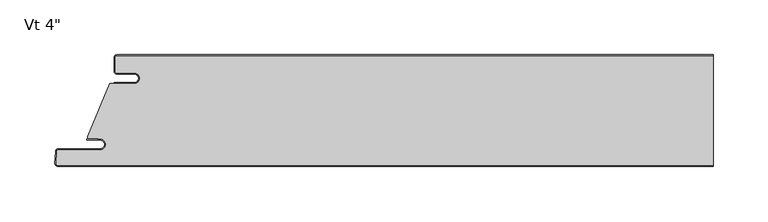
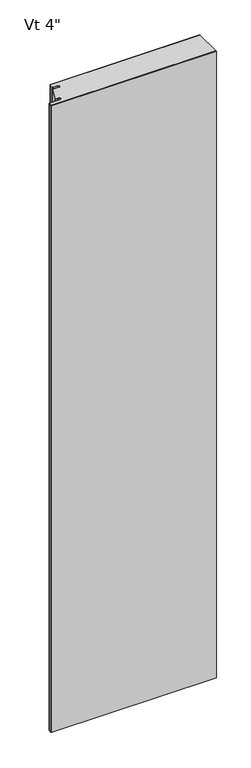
"""IFC4 building model written with IfcOpenShell, lengths in millimetres: plate geometry."""

import ifcopenshell
import ifcopenshell.guid

model = None  # the IFC model being written
_history = None  # IfcOwnerHistory: only IFC2X3 demands one
_inside = {}  # id of a spatial element -> (the spatial element, [elements in it])
_under = {}  # id of a project, library or spatial element -> (it, [spatial elements below it])
_declared = {}  # id of a project -> (the project, [libraries it declares])
_typed = {}  # id of a type object -> (the type object, [elements of that type])
_made_of = {}  # id of a material, layer set ... -> (it, [elements and type objects made of it])


def new_model(schema):
    """Start an empty IFC model of exactly this schema.

    Asked for "IFC4X3", IfcOpenShell would pick the latest addendum, in which some entities
    have other attributes; the version numbers below select the first issue.
    IFC2X3 requires an IfcOwnerHistory on every rooted entity: one is made here for all.
    """
    global model, _history
    if schema == "IFC4X3":
        model = ifcopenshell.file(schema_version=(4, 3, 0, 0))
    else:
        model = ifcopenshell.file(schema=schema)
    _inside.clear()
    _under.clear()
    _declared.clear()
    _typed.clear()
    _made_of.clear()
    _history = None
    if model.schema == "IFC2X3":
        org = make("IfcOrganization", Name="unknown")
        user = make(
            "IfcPersonAndOrganization",
            ThePerson=make("IfcPerson", FamilyName="unknown"),
            TheOrganization=org,
        )
        app = make(
            "IfcApplication",
            ApplicationDeveloper=org,
            Version="unknown",
            ApplicationFullName="unknown",
            ApplicationIdentifier="unknown",
        )
        _history = make(
            "IfcOwnerHistory",
            OwningUser=user,
            OwningApplication=app,
            ChangeAction="ADDED",
            CreationDate=0,
        )
    return model


def make(cls, **values):
    """One entity of the class cls with the attributes given. An attribute that is None is left unset."""
    return model.create_entity(
        cls, **{name: value for name, value in values.items() if value is not None}
    )


def rooted(cls, **values):
    """An entity with a GlobalId (a new one), such as an element, a storey or a relation."""
    return make(cls, GlobalId=ifcopenshell.guid.new(), OwnerHistory=_history, **values)


def si_unit(unit_type, name, prefix=None):
    """IfcSIUnit, for example si_unit("LENGTHUNIT", "METRE", prefix="MILLI")."""
    return make("IfcSIUnit", UnitType=unit_type, Prefix=prefix, Name=name)


def assignment(units):
    """IfcUnitAssignment: the units of a project."""
    return None if units is None else make("IfcUnitAssignment", Units=units)


def point(xyz):
    """IfcCartesianPoint."""
    return None if xyz is None else make("IfcCartesianPoint", Coordinates=xyz)


def direction(xyz):
    """IfcDirection."""
    return None if xyz is None else make("IfcDirection", DirectionRatios=xyz)


def frame(location, z_axis=None, x_axis=None):
    """IfcAxis2Placement3D, a coordinate frame: its origin and axes. An axis left out is left unset."""
    return make(
        "IfcAxis2Placement3D",
        Location=point(location),
        Axis=direction(z_axis),
        RefDirection=direction(x_axis),
    )


def frame_2d(location, x_axis=None):
    """IfcAxis2Placement2D, a coordinate frame in the plane: its origin and x axis."""
    return make(
        "IfcAxis2Placement2D", Location=point(location), RefDirection=direction(x_axis)
    )


def origin():
    """The frame at (0, 0, 0) with its axes left unset."""
    return frame((0.0, 0.0, 0.0))


def origin_with_axes():
    """The frame at (0, 0, 0) with the z axis (0, 0, 1) and the x axis (1, 0, 0) written out."""
    return frame((0.0, 0.0, 0.0), z_axis=(0.0, 0.0, 1.0), x_axis=(1.0, 0.0, 0.0))


def place(relative_to, where):
    """IfcLocalPlacement: puts the frame where relative to a parent placement (None: the world)."""
    return make(
        "IfcLocalPlacement", PlacementRelTo=relative_to, RelativePlacement=where
    )


def context(
    kind, dimensions, precision=None, world=None, true_north=None, identifier=None
):
    """IfcGeometricRepresentationContext, for example the 3D "Model" context."""
    return make(
        "IfcGeometricRepresentationContext",
        ContextIdentifier=identifier,
        ContextType=kind,
        CoordinateSpaceDimension=dimensions,
        Precision=precision,
        WorldCoordinateSystem=world,
        TrueNorth=true_north,
    )


def project(units=None, contexts=None):
    """IfcProject with its units and contexts."""
    return rooted(
        "IfcProject",
        Name="project",
        RepresentationContexts=contexts,
        UnitsInContext=assignment(units),
    )


def spatial(cls, under=None, at=None, **own):
    """A site, building, storey or space (cls), placed at a placement, below another one or the project."""
    s = rooted(cls, ObjectPlacement=at, **own)
    if under is not None:
        _under.setdefault(under.id(), (under, []))[1].append(s)
    return s


def polyline(points):
    """IfcPolyline through the points."""
    return make("IfcPolyline", Points=[point(p) for p in points])


def circle_curve(where, radius):
    """IfcCircle in the frame where."""
    return make("IfcCircle", Position=where, Radius=radius)


def trimmed(basis, trim1, trim2, sense, master):
    """IfcTrimmedCurve: the piece of a basis curve between two trims."""
    return make(
        "IfcTrimmedCurve",
        BasisCurve=basis,
        Trim1=trim1,
        Trim2=trim2,
        SenseAgreement=sense,
        MasterRepresentation=master,
    )


def segment(curve, same_sense, transition):
    """IfcCompositeCurveSegment."""
    return make(
        "IfcCompositeCurveSegment",
        Transition=transition,
        SameSense=same_sense,
        ParentCurve=curve,
    )


def composite_curve(segments, self_intersect=None):
    """IfcCompositeCurve: segments joined end to end."""
    return make("IfcCompositeCurve", Segments=segments, SelfIntersect=self_intersect)


def outline(outer, holes=None, kind="AREA"):
    """IfcArbitraryClosedProfileDef: a profile drawn as a closed curve; with holes, ...WithVoids."""
    if holes is None:
        return make("IfcArbitraryClosedProfileDef", ProfileType=kind, OuterCurve=outer)
    return make(
        "IfcArbitraryProfileDefWithVoids",
        ProfileType=kind,
        OuterCurve=outer,
        InnerCurves=holes,
    )


def extrude(swept, where, along, depth):
    """IfcExtrudedAreaSolid: the profile swept, set in the frame where, extruded along a direction by depth."""
    return make(
        "IfcExtrudedAreaSolid",
        SweptArea=swept,
        Position=where,
        ExtrudedDirection=direction(along),
        Depth=depth,
    )


def shape(context_of_items, identifier, shape_type, items):
    """IfcShapeRepresentation: the items that make up one representation, for example the "Body"."""
    return make(
        "IfcShapeRepresentation",
        ContextOfItems=context_of_items,
        RepresentationIdentifier=identifier,
        RepresentationType=shape_type,
        Items=items,
    )


def source(mapping_origin, context_of_items, identifier, shape_type, items):
    """IfcRepresentationMap: a shape defined once, which mapped items show again and again."""
    return make(
        "IfcRepresentationMap",
        MappingOrigin=mapping_origin,
        MappedRepresentation=shape(context_of_items, identifier, shape_type, items),
    )


def transform(
    local_origin,
    x_axis=None,
    y_axis=None,
    z_axis=None,
    scale=None,
    scale2=None,
    scale3=None,
    uniform=True,
):
    """IfcCartesianTransformationOperator3D, or its non-uniform kind. x_axis, y_axis, z_axis: its Axis1, 2, 3."""
    if uniform:
        return make(
            "IfcCartesianTransformationOperator3D",
            Axis1=direction(x_axis),
            Axis2=direction(y_axis),
            LocalOrigin=point(local_origin),
            Scale=scale,
            Axis3=direction(z_axis),
        )
    return make(
        "IfcCartesianTransformationOperator3DnonUniform",
        Axis1=direction(x_axis),
        Axis2=direction(y_axis),
        LocalOrigin=point(local_origin),
        Scale=scale,
        Axis3=direction(z_axis),
        Scale2=scale2,
        Scale3=scale3,
    )


def mapped(mapping_source, mapping_target):
    """IfcMappedItem: shows the shape of a source again, moved by a transform."""
    return make(
        "IfcMappedItem", MappingSource=mapping_source, MappingTarget=mapping_target
    )


def made_of(thing, what):
    """Note that an element or type object is made of a material, layer set ...; save() writes the relation."""
    if what is not None:
        _made_of.setdefault(what.id(), (what, []))[1].append(thing)
    return thing


def element(
    cls,
    number,
    at=None,
    inside=None,
    cuts=None,
    type_object=None,
    material=None,
    context=None,
    identifier="Body",
    shape_type=None,
    held_by="IfcProductDefinitionShape",
    body=None,
    shapes=None,
    **own,
):
    """One element of the class cls, such as IfcWall. Its Tag is "e" and its number.

    at: its placement. inside: the storey or other place that contains it. cuts: it is an
    opening in that element (IfcRelVoidsElement). A single representation is given by context,
    identifier, shape_type and body (its items); several are given by shapes. held_by: the class
    of the entity that holds the representations. save() writes the other relations.
    """
    e = rooted(cls, Tag="e%d" % number, ObjectPlacement=at, **own)
    if body is not None:
        shapes = [shape(context, identifier, shape_type, body)]
    if shapes is not None:
        e.Representation = make(held_by, Representations=shapes)
    if inside is not None:
        _inside.setdefault(inside.id(), (inside, []))[1].append(e)
    if cuts is not None:
        rooted(
            "IfcRelVoidsElement", RelatingBuildingElement=cuts, RelatedOpeningElement=e
        )
    if type_object is not None:
        _typed.setdefault(type_object.id(), (type_object, []))[1].append(e)
    return made_of(e, material)


def aggregate(whole, parts):
    """IfcRelAggregates: a whole, such as a stair, and the parts it consists of."""
    return rooted("IfcRelAggregates", RelatingObject=whole, RelatedObjects=parts)


def save(model, path):
    """Write the relations noted so far, then the file.

    IfcRelAggregates (storeys below a building ...), IfcRelContainedInSpatialStructure (elements
    in a storey), IfcRelDefinesByType, IfcRelAssociatesMaterial and IfcRelDeclares: one each for
    every whole, place, type object, material and project.
    """
    for whole, parts in _under.values():
        aggregate(whole, parts)
    for where, things in _inside.values():
        rooted(
            "IfcRelContainedInSpatialStructure",
            RelatedElements=things,
            RelatingStructure=where,
        )
    for kind, things in _typed.values():
        rooted("IfcRelDefinesByType", RelatedObjects=things, RelatingType=kind)
    for what, things in _made_of.values():
        rooted("IfcRelAssociatesMaterial", RelatedObjects=things, RelatingMaterial=what)
    for by, libraries in _declared.values():
        rooted("IfcRelDeclares", RelatingContext=by, RelatedDefinitions=libraries)
    model.write(path)


def plate_4947b39d(model_context):
    return source(origin(), model_context, "Body", "SweptSolid", [
        extrude(outline(composite_curve([segment(polyline([(-253.7499998, -16.4625), (-269.6249998, -16.4625)]), True, "CONTINUOUS"), segment(trimmed(circle_curve(frame_2d((-269.6249998, -15.08125)), 1.38125), [point((-269.6249998, -16.4625))], [point((-271.0062498, -15.08125))], False, "CARTESIAN"), True, "CONTINUOUS"), segment(polyline([(-271.0062498, -15.08125), (-271.0062498, -2.38125)]), True, "CONTINUOUS"), segment(trimmed(circle_curve(frame_2d((-269.6249998, -2.38125)), 1.38125), [point((-271.0062498, -2.38125))], [point((-269.6249998, -1.0))], False, "CARTESIAN"), True, "CONTINUOUS"), segment(polyline([(-269.6249998, -1.0), (272.7999998, -1.0), (272.7999998, -100.6), (-323.4862034, -100.6)]), True, "CONTINUOUS"), segment(trimmed(circle_curve(frame_2d((-323.4862034, -99.21875)), 1.38125), [point((-323.4862034, -100.6))], [point((-324.8655604, -99.146461))], False, "CARTESIAN"), True, "CONTINUOUS"), segment(polyline([(-324.8655604, -99.146461), (-324.283179, -88.033961)]), True, "CONTINUOUS"), segment(trimmed(circle_curve(frame_2d((-322.9038219, -88.10625)), 1.38125), [point((-324.283179, -88.033961))], [point((-322.9038219, -86.725))], False, "CARTESIAN"), True, "CONTINUOUS"), segment(polyline([(-322.9038219, -86.725), (-284.7205173, -86.725)]), True, "CONTINUOUS"), segment(trimmed(circle_curve(frame_2d((-284.7205173, -81.75625)), 4.96875), [point((-284.7205173, -86.725))], [point((-284.7205173, -76.7875))], True, "CARTESIAN"), True, "CONTINUOUS"), segment(polyline([(-284.7205173, -76.7875), (-286.3080173, -76.99375), (-286.3080173, -76.2), (-295.8187498, -76.2), (-295.8187498, -74.6157227), (-275.9323421, -26.4), (-253.7499998, -26.4)]), True, "CONTINUOUS"), segment(trimmed(circle_curve(frame_2d((-253.7499998, -21.43125)), 4.96875), [point((-253.7499998, -26.4))], [point((-253.7499998, -16.4625))], True, "CARTESIAN"), True, "CONTINUOUS")], self_intersect=False)), origin_with_axes(), (0.0, 0.0, 1.0), 2400.0),
        extrude(outline(composite_curve([segment(polyline([(-272.0062498, -25.4), (-253.7499998, -25.4)]), True, "CONTINUOUS"), segment(trimmed(circle_curve(frame_2d((-253.7499998, -21.43125)), 3.96875), [point((-253.7499998, -25.4))], [point((-253.7499998, -17.4625))], True, "CARTESIAN"), True, "CONTINUOUS"), segment(polyline([(-253.7499998, -17.4625), (-269.6249998, -17.4625)]), True, "CONTINUOUS"), segment(trimmed(circle_curve(frame_2d((-269.6249998, -15.08125)), 2.38125), [point((-269.6249998, -17.4625))], [point((-272.0062498, -15.08125))], False, "CARTESIAN"), True, "CONTINUOUS"), segment(polyline([(-272.0062498, -15.08125), (-272.0062498, -2.38125)]), True, "CONTINUOUS"), segment(trimmed(circle_curve(frame_2d((-269.6249998, -2.38125)), 2.38125), [point((-272.0062498, -2.38125))], [point((-269.6249998, 0.0))], False, "CARTESIAN"), True, "CONTINUOUS"), segment(polyline([(-269.6249998, 0.0), (272.7999998, 0.0), (272.7999998, -1.0), (-269.6249998, -1.0)]), True, "CONTINUOUS"), segment(trimmed(circle_curve(frame_2d((-269.6249998, -2.38125)), 1.38125), [point((-269.6249998, -1.0))], [point((-271.0062498, -2.38125))], True, "CARTESIAN"), True, "CONTINUOUS"), segment(polyline([(-271.0062498, -2.38125), (-271.0062498, -15.08125)]), True, "CONTINUOUS"), segment(trimmed(circle_curve(frame_2d((-269.6249998, -15.08125)), 1.38125), [point((-271.0062498, -15.08125))], [point((-269.6249998, -16.4625))], True, "CARTESIAN"), True, "CONTINUOUS"), segment(polyline([(-269.6249998, -16.4625), (-253.7499998, -16.4625)]), True, "CONTINUOUS"), segment(trimmed(circle_curve(frame_2d((-253.7499998, -21.43125)), 4.96875), [point((-253.7499998, -16.4625))], [point((-253.7499998, -26.4))], False, "CARTESIAN"), True, "CONTINUOUS"), segment(polyline([(-253.7499998, -26.4), (-272.0062498, -26.4), (-272.0062498, -25.4)]), True, "CONTINUOUS")], self_intersect=False)), origin_with_axes(), (0.0, 0.0, 1.0), 2400.0),
        extrude(outline(composite_curve([segment(polyline([(-296.0314548, -76.2), (-286.3080173, -76.2), (-286.3080173, -76.99375), (-284.7205173, -76.7875)]), True, "CONTINUOUS"), segment(trimmed(circle_curve(frame_2d((-284.7205173, -81.75625)), 4.96875), [point((-284.7205173, -76.7875))], [point((-284.7205173, -86.725))], False, "CARTESIAN"), True, "CONTINUOUS"), segment(polyline([(-284.7205173, -86.725), (-322.9038219, -86.725)]), True, "CONTINUOUS"), segment(trimmed(circle_curve(frame_2d((-322.9038219, -88.10625)), 1.38125), [point((-322.9038219, -86.725))], [point((-324.283179, -88.033961))], True, "CARTESIAN"), True, "CONTINUOUS"), segment(polyline([(-324.283179, -88.033961), (-324.8655604, -99.146461)]), True, "CONTINUOUS"), segment(trimmed(circle_curve(frame_2d((-323.4862034, -99.21875)), 1.38125), [point((-324.8655604, -99.146461))], [point((-323.4862034, -100.6))], True, "CARTESIAN"), True, "CONTINUOUS"), segment(polyline([(-323.4862034, -100.6), (272.7999998, -100.6), (272.7999998, -101.6), (-323.4862034, -101.6)]), True, "CONTINUOUS"), segment(trimmed(circle_curve(frame_2d((-323.4862034, -99.21875)), 2.38125), [point((-323.4862034, -101.6))], [point((-325.8641899, -99.094125))], False, "CARTESIAN"), True, "CONTINUOUS"), segment(polyline([(-325.8641899, -99.094125), (-325.2818085, -87.981625)]), True, "CONTINUOUS"), segment(trimmed(circle_curve(frame_2d((-322.9038219, -88.10625)), 2.38125), [point((-325.2818085, -87.981625))], [point((-322.9038219, -85.725))], False, "CARTESIAN"), True, "CONTINUOUS"), segment(polyline([(-322.9038219, -85.725), (-284.7205173, -85.725)]), True, "CONTINUOUS"), segment(trimmed(circle_curve(frame_2d((-284.7205173, -81.75625)), 3.96875), [point((-284.7205173, -85.725))], [point((-284.7205173, -77.7875))], True, "CARTESIAN"), True, "CONTINUOUS"), segment(polyline([(-284.7205173, -77.7875), (-296.0314548, -77.7875)]), True, "CONTINUOUS"), segment(trimmed(circle_curve(frame_2d((-296.0314548, -76.99375)), 0.79375), [point((-296.0314548, -77.7875))], [point((-296.0314548, -76.2))], False, "CARTESIAN"), True, "CONTINUOUS")], self_intersect=False)), origin_with_axes(), (0.0, 0.0, 1.0), 2400.0),
    ])


if __name__ == "__main__":
    model = new_model("IFC4")
    model_context = context("Model", 3, world=origin())
    ifc_project = project(units=[si_unit("LENGTHUNIT", "METRE", prefix="MILLI")], contexts=[model_context])
    site = spatial("IfcSite", under=ifc_project)
    building = spatial("IfcBuilding", under=site)
    placement = place(None, origin())
    plate_shape = plate_4947b39d(model_context)
    element("IfcPlate", 1, ObjectType="KIP-36-DWTR-R19-CP-Vt-F : Vt 4\"", at=placement, inside=building, context=model_context, shape_type="MappedRepresentation", body=[
        mapped(plate_shape, transform((0.0, 0.0, 0.0), x_axis=(1.0, 0.0, 0.0), y_axis=(0.0, 1.0, 0.0), z_axis=(0.0, 0.0, 1.0))),
    ])
    save(model, "model.ifc")
